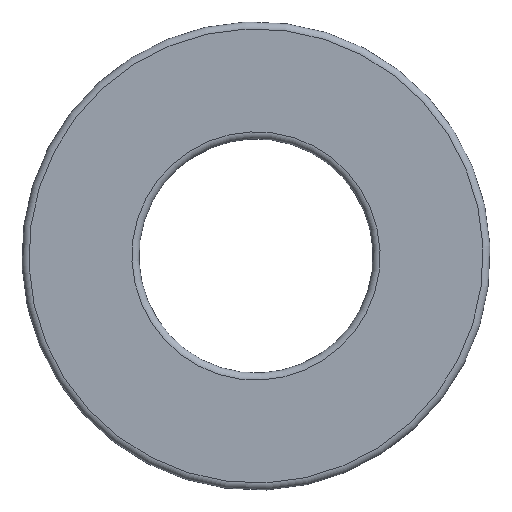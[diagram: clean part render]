
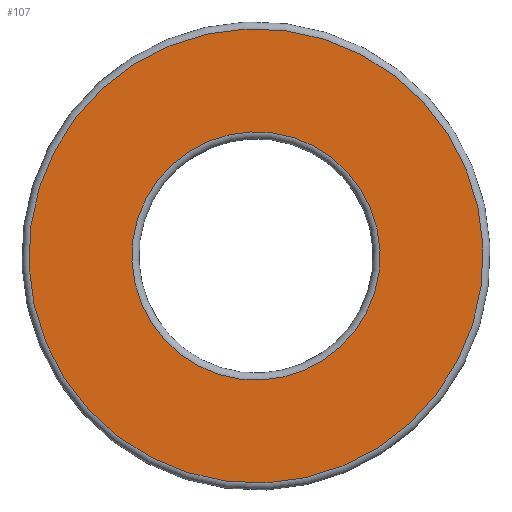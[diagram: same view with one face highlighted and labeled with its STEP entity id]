
A CAD part, top view. The second image highlights one B-rep face of the part: STEP entity #107.
In plain terms, the highlighted planar face has unit normal (0, 0, 1).
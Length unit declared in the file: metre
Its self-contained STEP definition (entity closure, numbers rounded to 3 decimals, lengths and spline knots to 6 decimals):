
#12=PLANE('',#184);
#28=ORIENTED_EDGE('',*,*,#39,.T.);
#29=ORIENTED_EDGE('',*,*,#36,.F.);
#36=EDGE_CURVE('',#44,#44,#52,.T.);
#39=EDGE_CURVE('',#47,#47,#55,.T.);
#44=VERTEX_POINT('',#233);
#47=VERTEX_POINT('',#240);
#52=CIRCLE('',#177,0.00485);
#55=CIRCLE('',#181,0.00265);
#68=EDGE_LOOP('',(#28));
#69=EDGE_LOOP('',(#29));
#84=FACE_BOUND('',#68,.T.);
#85=FACE_BOUND('',#69,.T.);
#107=ADVANCED_FACE('',(#84,#85),#12,.F.);
#177=AXIS2_PLACEMENT_3D('',#232,#202,#203);
#181=AXIS2_PLACEMENT_3D('',#239,#210,#211);
#184=AXIS2_PLACEMENT_3D('',#243,#216,#217);
#202=DIRECTION('',(0.,0.,-1.));
#203=DIRECTION('',(-0.383,0.924,0.));
#210=DIRECTION('',(0.,0.,-1.));
#211=DIRECTION('',(-0.383,0.924,0.));
#216=DIRECTION('',(0.,0.,-1.));
#217=DIRECTION('',(-0.383,0.924,0.));
#232=CARTESIAN_POINT('',(-0.005798,-0.024952,-0.223023));
#233=CARTESIAN_POINT('',(-0.007656,-0.020471,-0.223023));
#239=CARTESIAN_POINT('',(-0.005798,-0.024952,-0.223023));
#240=CARTESIAN_POINT('',(-0.006813,-0.022504,-0.223023));
#243=CARTESIAN_POINT('',(-0.005798,-0.024952,-0.223023));
